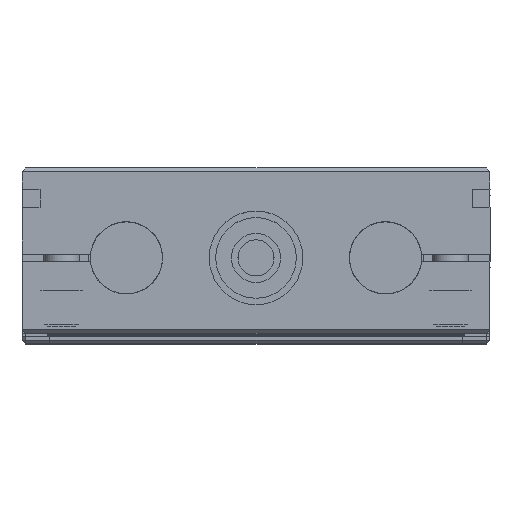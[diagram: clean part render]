
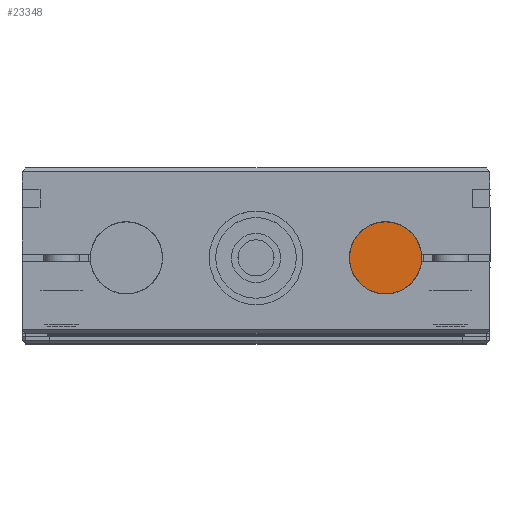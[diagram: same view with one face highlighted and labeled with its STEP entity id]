
A CAD part, top view. The second image highlights one B-rep face of the part: STEP entity #23348.
In plain terms, the highlighted planar face has unit normal (0, 0, 1) as drawn and (1, 0, 0) by its records, which use the part's own axes.
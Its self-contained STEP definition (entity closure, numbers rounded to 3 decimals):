
#1610 = VERTEX_POINT ( 'NONE', #19887 ) ;
#2955 = DIRECTION ( 'NONE',  ( 1., 0., 0. ) ) ;
#7985 = CARTESIAN_POINT ( 'NONE',  ( 520., 25., 36. ) ) ;
#10506 = CARTESIAN_POINT ( 'NONE',  ( 520., 25., 36. ) ) ;
#18889 = AXIS2_PLACEMENT_3D ( 'NONE', #7985, #52207, #35418 ) ;
#19887 = CARTESIAN_POINT ( 'NONE',  ( 520., 25., 46. ) ) ;
#23348 = ADVANCED_FACE ( 'NONE', ( #30430 ), #46852, .T. ) ;
#24636 = EDGE_LOOP ( 'NONE', ( #39522, #47774 ) ) ;
#25509 = CIRCLE ( 'NONE', #59353, 10. ) ;
#30430 = FACE_OUTER_BOUND ( 'NONE', #24636, .T. ) ;
#32462 = DIRECTION ( 'NONE',  ( 1., 0., 0. ) ) ;
#32817 = DIRECTION ( 'NONE',  ( 0., 0., -1. ) ) ;
#35418 = DIRECTION ( 'NONE',  ( 0., 0., -1. ) ) ;
#37572 = VERTEX_POINT ( 'NONE', #45971 ) ;
#39522 = ORIENTED_EDGE ( 'NONE', *, *, #56209, .T. ) ;
#45971 = CARTESIAN_POINT ( 'NONE',  ( 520., 25., 26. ) ) ;
#46852 = PLANE ( 'NONE',  #67847 ) ;
#47774 = ORIENTED_EDGE ( 'NONE', *, *, #52284, .T. ) ;
#50356 = CIRCLE ( 'NONE', #18889, 10. ) ;
#52207 = DIRECTION ( 'NONE',  ( 1., 0., 0. ) ) ;
#52284 = EDGE_CURVE ( 'NONE', #1610, #37572, #50356, .T. ) ;
#56209 = EDGE_CURVE ( 'NONE', #37572, #1610, #25509, .T. ) ;
#57473 = CARTESIAN_POINT ( 'NONE',  ( 520., 25., 36. ) ) ;
#59353 = AXIS2_PLACEMENT_3D ( 'NONE', #10506, #32462, #32817 ) ;
#67847 = AXIS2_PLACEMENT_3D ( 'NONE', #57473, #2955, #69166 ) ;
#69166 = DIRECTION ( 'NONE',  ( 0., 0., -1. ) ) ;
